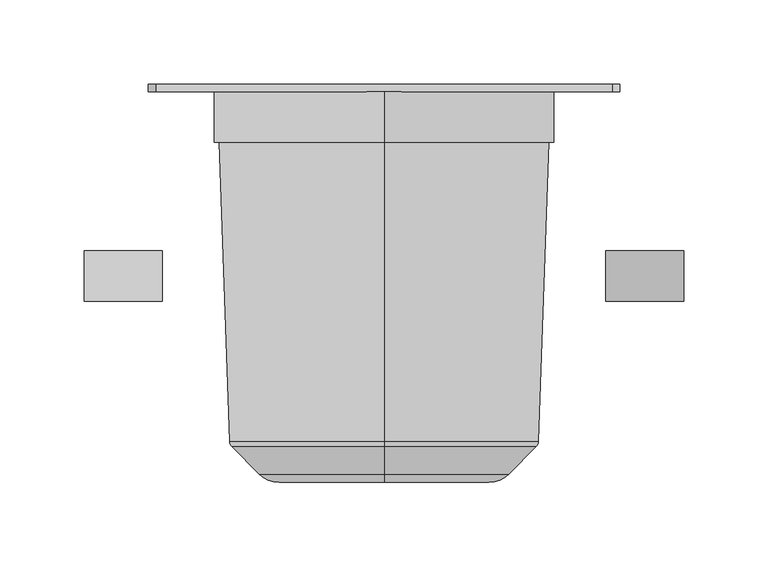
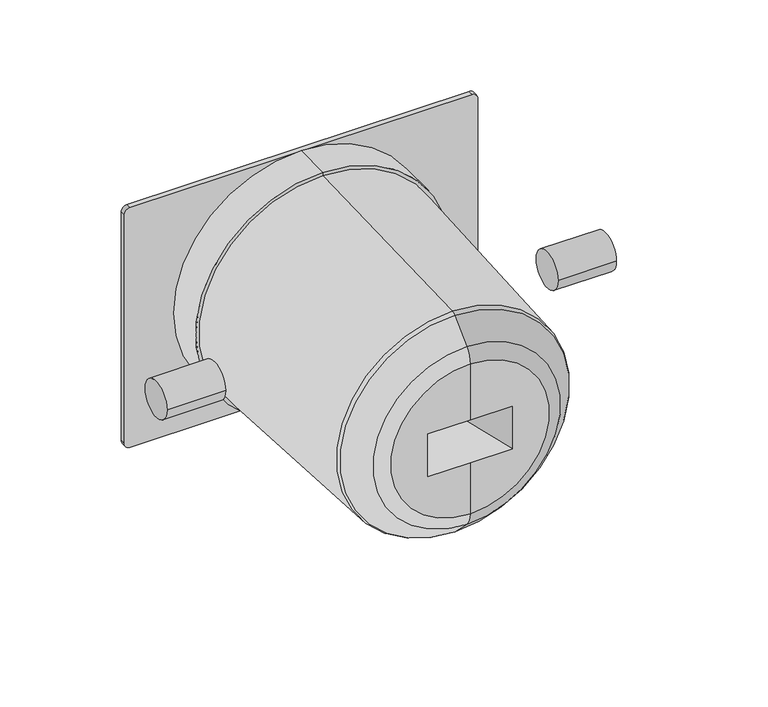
"""IFC4 building model written with IfcOpenShell, lengths in millimetres: proxy geometry, 230208 BIM Data_CS 532T VA-FR : CS 532T VA."""

from ifc_helpers import new_model, si_unit, point, frame, frame_2d, origin, place, context, project, spatial, polyline, circle_curve, ellipse_curve, trimmed, segment, composite_curve, outline, extrude, source, transform, mapped, element, save
from ifc_brep_helpers import plane_surface, cylinder_surface, revolved_surface, advanced_brep


def communication_devices_dded3aef(model_context):
    return source(origin(), model_context, "Body", "SolidModel", [
        advanced_brep(
        [(0.0, 93.147106, 47.5), (0.0, 93.147106, 243.5), (0.0, 93.147106, 246.0), (0.0, 93.147106, 45.0), (0.0, -83.6886944, 53.6752422), (0.0, -83.6886944, 237.3247578), (0.0, -103.2764685, 71.3634002), (0.0, -103.2764685, 219.6365998), (0.0, -87.0497308, 235.8633375), (0.0, -87.0497308, 55.1366625), (0.0, -108.1174574, 207.9494189), (0.0, -108.1174574, 83.0505811), (0.0, -108.1174574, 125.4172934), (-33.7253457, -108.1174574, 125.4172934), (-33.7253457, -108.1174574, 161.223233), (0.0, -108.1174574, 161.223233), (33.7253457, -108.1174574, 161.223233), (33.7253457, -108.1174574, 125.4172934), (0.0, 123.147106, 45.0), (0.0, 123.147106, 246.0), (0.0, 123.147106, 145.5), (15.0, -74.9556947, 150.8366836), (-15.0, -74.9556947, 150.8366836), (-15.0, -74.9556947, 135.8366836), (15.0, -74.9556947, 135.8366836)],
        [
            (0, 1, circle_curve(frame((0.0, 93.147106, 145.5), z_axis=(0.0, 1.0, 0.0), x_axis=(0.0, 0.0, 1.0)), 98.0)),
            (1, 2),
            (2, 3, circle_curve(frame((0.0, 93.147106, 145.5), z_axis=(0.0, -1.0, 0.0), x_axis=(0.0, 0.0, 1.0)), 100.5)),
            (3, 0),
            (1, 0, circle_curve(frame((0.0, 93.147106, 145.5), z_axis=(0.0, 1.0, 0.0), x_axis=(0.0, 0.0, 1.0)), 98.0)),
            (3, 2, circle_curve(frame((0.0, 93.147106, 145.5), z_axis=(0.0, -1.0, 0.0), x_axis=(0.0, 0.0, 1.0)), 100.5)),
            (0, 4),
            (4, 5, circle_curve(frame((0.0, -83.6886944, 145.5), z_axis=(0.0, 1.0, 0.0), x_axis=(0.0, 0.0, 1.0)), 91.8247578)),
            (5, 1),
            (5, 4, circle_curve(frame((0.0, -83.6886944, 145.5), z_axis=(0.0, 1.0, 0.0), x_axis=(0.0, 0.0, 1.0)), 91.8247578)),
            (6, 7, circle_curve(frame((0.0, -103.2764685, 145.5), z_axis=(0.0, 1.0, 0.0), x_axis=(0.0, 0.0, 1.0)), 74.1365998)),
            (7, 8),
            (8, 9, circle_curve(frame((0.0, -87.0497308, 145.5), z_axis=(0.0, -1.0, 0.0), x_axis=(0.0, 0.0, 1.0)), 90.3633375)),
            (9, 6),
            (7, 6, circle_curve(frame((0.0, -103.2764685, 145.5), z_axis=(0.0, 1.0, 0.0), x_axis=(0.0, 0.0, 1.0)), 74.1365998)),
            (9, 8, circle_curve(frame((0.0, -87.0497308, 145.5), z_axis=(0.0, -1.0, 0.0), x_axis=(0.0, 0.0, 1.0)), 90.3633375)),
            (10, 11, circle_curve(frame((0.0, -108.1174574, 145.5), z_axis=(0.0, -1.0, 0.0), x_axis=(0.0, 0.0, 1.0)), 62.4494189)),
            (11, 12),
            (12, 13),
            (13, 14),
            (14, 15),
            (15, 10),
            (11, 10, circle_curve(frame((0.0, -108.1174574, 145.5), z_axis=(0.0, -1.0, 0.0), x_axis=(0.0, 0.0, 1.0)), 62.4494189)),
            (15, 16),
            (16, 17),
            (17, 12),
            (18, 19, circle_curve(frame((0.0, 123.147106, 145.5), z_axis=(0.0, 1.0, 0.0), x_axis=(0.0, 0.0, 1.0)), 100.5)),
            (19, 20),
            (20, 18),
            (19, 18, circle_curve(frame((0.0, 123.147106, 145.5), z_axis=(0.0, 1.0, 0.0), x_axis=(0.0, 0.0, 1.0)), 100.5)),
            (2, 19),
            (18, 3),
            (4, 9, circle_curve(frame((0.0, -83.5141969, 58.6721964), z_axis=(-1.0, 0.0, 0.0), x_axis=(0.0, 1.0, 0.0)), 5.0)),
            (8, 5, circle_curve(frame((0.0, -83.5141969, 232.3278036), z_axis=(-1.0, 0.0, 0.0), x_axis=(0.0, 1.0, 0.0)), 5.0)),
            (6, 11, circle_curve(frame((0.0, -91.5892876, 83.0505811), z_axis=(-1.0, 0.0, 0.0), x_axis=(0.0, 1.0, 0.0)), 16.5281698)),
            (10, 7, circle_curve(frame((0.0, -91.5892876, 207.9494189), z_axis=(-1.0, 0.0, 0.0), x_axis=(0.0, 1.0, 0.0)), 16.5281698)),
            (21, 22),
            (22, 23),
            (23, 24),
            (24, 21),
            (21, 16),
            (14, 22),
            (13, 23),
            (17, 24),
        ],
        [
            plane_surface(frame((0.0, 93.147106, 145.5), z_axis=(0.0, -1.0, 0.0), x_axis=(0.0, 0.0, 1.0))),
            revolved_surface(polyline([(0.0, 93.147106, 243.5), (0.0, -83.6886944, 237.3247578)]), (0.0, -18.1174574, 145.5), (0.0, -1.0, 0.0)),
            revolved_surface(polyline([(0.0, -87.0497308, 235.8633375), (0.0, -103.2764685, 219.6365998)]), (0.0, -18.1174574, 145.5), (0.0, -1.0, 0.0)),
            plane_surface(frame((0.0, -108.1174574, 145.5), z_axis=(0.0, -1.0, 0.0), x_axis=(0.0, 0.0, 1.0))),
            plane_surface(frame((0.0, 123.147106, 145.5), z_axis=(0.0, 1.0, 0.0), x_axis=(0.0, 0.0, 1.0))),
            cylinder_surface(frame((0.0, -18.1174574, 145.5), z_axis=(0.0, -1.0, 0.0), x_axis=(0.0, 0.0, 1.0)), 100.5),
            revolved_surface(trimmed(ellipse_curve(frame((0.0, -83.5141969, 232.3278036), z_axis=(1.0, 0.0, 0.0), x_axis=(0.0, 1.0, 0.0)), 5.0, 5.0), [point((0.0, -83.6886944, 237.3247578))], [point((0.0, -87.0497308, 235.8633375))], True, "CARTESIAN"), (0.0, -18.1174574, 145.5), (0.0, -1.0, 0.0)),
            revolved_surface(trimmed(ellipse_curve(frame((0.0, -91.5892876, 207.9494189), z_axis=(1.0, 0.0, 0.0), x_axis=(0.0, 1.0, 0.0)), 16.5281698, 16.5281698), [point((0.0, -103.2764685, 219.6365998))], [point((0.0, -108.1174574, 207.9494189))], True, "CARTESIAN"), (0.0, -18.1174574, 145.5), (0.0, -1.0, 0.0)),
            plane_surface(frame((0.0, -74.9556947, 143.3366836), z_axis=(0.0, -1.0, 0.0), x_axis=(-1.0, 0.0, 0.0))),
            plane_surface(frame((0.0, -114.802204, 163.3169532), z_axis=(0.0, -0.2988909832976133, -0.9542872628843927), x_axis=(1.0, 0.0, 0.0))),
            plane_surface(frame((-37.5, -114.802204, 143.3169532), z_axis=(0.8707681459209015, -0.4916938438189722, 0.0), x_axis=(0.0, 0.0, 1.0))),
            plane_surface(frame((0.0, -114.802204, 123.3169532), z_axis=(0.0, -0.29975124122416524, 0.9540173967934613), x_axis=(-1.0, 0.0, 0.0))),
            plane_surface(frame((37.5, -114.802204, 143.3169532), z_axis=(-0.8707681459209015, -0.4916938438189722, 0.0), x_axis=(0.0, 0.0, -1.0))),
        ],
        [
            (0, [[1, 2, 3, 4]]),
            (0, [[-2, 5, -4, 6]]),
            (1, [[-1, 7, 8, 9]]),
            (1, [[-5, -9, 10, -7]]),
            (2, [[11, 12, 13, 14]]),
            (2, [[-12, 15, -14, 16]]),
            (3, [[17, 18, 19, 20, 21, 22]]),
            (3, [[23, -22, 24, 25, 26, -18]]),
            (4, [[27, 28, 29]]),
            (4, [[-28, 30, -29]]),
            (5, [[-3, 31, -27, 32]]),
            (5, [[-6, -32, -30, -31]]),
            (6, [[-8, 33, -13, 34]]),
            (6, [[-10, -34, -16, -33]]),
            (7, [[-11, 35, -17, 36]]),
            (7, [[-15, -36, -23, -35]]),
            (8, [[37, 38, 39, 40]]),
            (9, [[-37, 41, -24, -21, 42]]),
            (10, [[-38, -42, -20, 43]]),
            (11, [[-39, -43, -19, -26, 44]]),
            (12, [[-40, -44, -25, -41]]),
        ],
    ),
        extrude(outline(composite_curve([segment(trimmed(circle_curve(frame_2d((14.0762744, 166.75)), 15.0), [point((-0.9237256, 166.75))], [point((29.0762744, 166.75))], False, "CARTESIAN"), True, "CONTINUOUS"), segment(trimmed(circle_curve(frame_2d((14.0762744, 166.75)), 15.0), [point((29.0762744, 166.75))], [point((-0.9237256, 166.75))], False, "CARTESIAN"), True, "CONTINUOUS")], self_intersect=False)), frame((131.2280143, 0.0, 0.0), z_axis=(1.0, 0.0, 0.0), x_axis=(0.0, 1.0, 0.0)), (0.0, 0.0, 1.0), 46.1313565),
        extrude(outline(composite_curve([segment(trimmed(circle_curve(frame_2d((14.0762744, 166.75)), 15.0), [point((-0.9237256, 166.75))], [point((29.0762744, 166.75))], False, "CARTESIAN"), True, "CONTINUOUS"), segment(trimmed(circle_curve(frame_2d((14.0762744, 166.75)), 15.0), [point((29.0762744, 166.75))], [point((-0.9237256, 166.75))], False, "CARTESIAN"), True, "CONTINUOUS")], self_intersect=False)), frame((-177.3593707, 0.0, 0.0), z_axis=(1.0, 0.0, 0.0), x_axis=(0.0, 1.0, 0.0)), (0.0, 0.0, 1.0), 46.1313565),
        extrude(outline(composite_curve([segment(trimmed(circle_curve(frame_2d((50.0, 135.0)), 4.4778179), [point((45.5221821, 135.0))], [point((50.0, 139.4778179))], False, "CARTESIAN"), True, "CONTINUOUS"), segment(polyline([(50.0, 139.4778179), (241.0, 139.4778179)]), True, "CONTINUOUS"), segment(trimmed(circle_curve(frame_2d((241.0, 135.0)), 4.4778179), [point((241.0, 139.4778179))], [point((245.4778179, 135.0))], False, "CARTESIAN"), True, "CONTINUOUS"), segment(polyline([(245.4778179, 135.0), (245.4778179, -135.0)]), True, "CONTINUOUS"), segment(trimmed(circle_curve(frame_2d((241.0, -135.0)), 4.4778179), [point((245.4778179, -135.0))], [point((241.0, -139.4778179))], False, "CARTESIAN"), True, "CONTINUOUS"), segment(polyline([(241.0, -139.4778179), (50.0, -139.4778179)]), True, "CONTINUOUS"), segment(trimmed(circle_curve(frame_2d((50.0, -135.0)), 4.4778179), [point((50.0, -139.4778179))], [point((45.5221821, -135.0))], False, "CARTESIAN"), True, "CONTINUOUS"), segment(polyline([(45.5221821, -135.0), (45.5221821, 135.0)]), True, "CONTINUOUS")], self_intersect=False)), frame((0.0, 123.147106, 0.0), z_axis=(0.0, 1.0, 0.0), x_axis=(0.0, 0.0, 1.0)), (0.0, 0.0, 1.0), 4.352894),
    ])


if __name__ == "__main__":
    model = new_model("IFC4")
    model_context = context("Model", 3, world=origin())
    ifc_project = project(units=[si_unit("LENGTHUNIT", "METRE", prefix="MILLI")], contexts=[model_context])
    site = spatial("IfcSite", under=ifc_project)
    building = spatial("IfcBuilding", under=site)
    placement = place(None, origin())
    communication_devices_shape = communication_devices_dded3aef(model_context)
    element("IfcBuildingElementProxy", 1, Name="230208 BIM Data_CS 532T VA-FR : CS 532T VA", ObjectType="230208 BIM Data_CS 532T VA-FR : CS 532T VA", at=placement, inside=building, context=model_context, shape_type="MappedRepresentation", body=[
        mapped(communication_devices_shape, transform((0.0, 0.0, 0.0), x_axis=(1.0, 0.0, 0.0), y_axis=(0.0, 1.0, 0.0), z_axis=(0.0, 0.0, 1.0))),
    ])
    save(model, "model.ifc")
